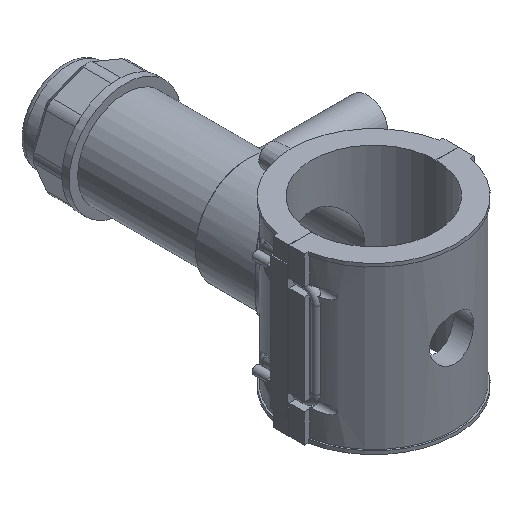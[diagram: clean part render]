
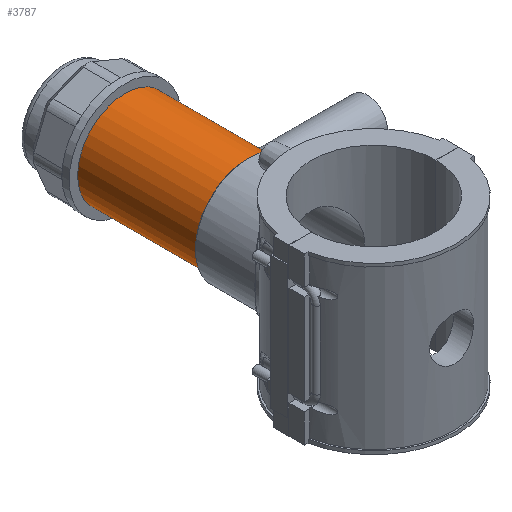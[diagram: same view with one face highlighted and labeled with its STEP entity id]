
A CAD part, isometric view. The second image highlights one B-rep face of the part: STEP entity #3787.
In plain terms, the highlighted cylindrical face has radius 33.928 mm (diameter 67.856 mm), a full revolution.
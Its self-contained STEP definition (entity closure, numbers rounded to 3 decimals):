
#53=FACE_BOUND('',#560,.T.);
#82=B_SPLINE_CURVE_WITH_KNOTS('',3,(#5587,#5588,#5589,#5590,#5591,#5592,
#5593,#5594,#5595,#5596,#5597,#5598,#5599,#5600),.UNSPECIFIED.,.F.,.F.,
(4,2,2,2,2,2,4),(0.,0.272,0.544,1.087,
1.63,1.901,2.173),.UNSPECIFIED.);
#83=B_SPLINE_CURVE_WITH_KNOTS('',3,(#5601,#5602,#5603,#5604,#5605,#5606,
#5607,#5608,#5609,#5610,#5611,#5612,#5613,#5614,#5615,#5616,#5617,#5618,
#5619,#5620,#5621,#5622,#5623,#5624,#5625,#5626,#5627,#5628,#5629,#5630,
#5631,#5632,#5633,#5634,#5635,#5636,#5637,#5638),.UNSPECIFIED.,.F.,.F.,
(4,2,2,2,2,2,2,2,2,2,2,2,2,2,2,2,2,2,4),(2.173,2.444,
2.716,3.259,3.802,4.074,4.346,
4.617,4.889,5.433,5.976,6.247,
6.519,6.79,7.061,7.604,8.148,
8.42,8.691),.UNSPECIFIED.);
#344=FACE_OUTER_BOUND('',#559,.T.);
#559=EDGE_LOOP('',(#2788,#2789,#2790,#2791,#2792,#2793));
#560=EDGE_LOOP('',(#2794,#2795));
#779=CIRCLE('',#4052,33.928);
#780=CIRCLE('',#4053,33.928);
#793=CIRCLE('',#4080,33.928);
#794=CIRCLE('',#4081,33.928);
#956=LINE('',#5888,#1297);
#1297=VECTOR('',#4630,33.928);
#1582=VERTEX_POINT('',#5584);
#1583=VERTEX_POINT('',#5586);
#1645=VERTEX_POINT('',#5829);
#1646=VERTEX_POINT('',#5830);
#1660=VERTEX_POINT('',#5884);
#1661=VERTEX_POINT('',#5885);
#1960=EDGE_CURVE('',#1583,#1582,#82,.T.);
#1961=EDGE_CURVE('',#1582,#1583,#83,.T.);
#2056=EDGE_CURVE('',#1645,#1646,#779,.T.);
#2057=EDGE_CURVE('',#1646,#1645,#780,.T.);
#2082=EDGE_CURVE('',#1660,#1661,#793,.T.);
#2083=EDGE_CURVE('',#1661,#1660,#794,.T.);
#2084=EDGE_CURVE('',#1661,#1646,#956,.T.);
#2788=ORIENTED_EDGE('',*,*,#2082,.F.);
#2789=ORIENTED_EDGE('',*,*,#2083,.F.);
#2790=ORIENTED_EDGE('',*,*,#2084,.T.);
#2791=ORIENTED_EDGE('',*,*,#2057,.T.);
#2792=ORIENTED_EDGE('',*,*,#2056,.T.);
#2793=ORIENTED_EDGE('',*,*,#2084,.F.);
#2794=ORIENTED_EDGE('',*,*,#1960,.T.);
#2795=ORIENTED_EDGE('',*,*,#1961,.T.);
#3691=CYLINDRICAL_SURFACE('',#4079,33.928);
#3787=ADVANCED_FACE('',(#344,#53),#3691,.T.);
#4052=AXIS2_PLACEMENT_3D('',#5831,#4558,#4559);
#4053=AXIS2_PLACEMENT_3D('',#5832,#4560,#4561);
#4079=AXIS2_PLACEMENT_3D('',#5883,#4624,#4625);
#4080=AXIS2_PLACEMENT_3D('',#5886,#4626,#4627);
#4081=AXIS2_PLACEMENT_3D('',#5887,#4628,#4629);
#4558=DIRECTION('center_axis',(0.,1.,0.));
#4559=DIRECTION('ref_axis',(1.,0.,0.));
#4560=DIRECTION('center_axis',(0.,1.,0.));
#4561=DIRECTION('ref_axis',(1.,0.,0.));
#4624=DIRECTION('center_axis',(0.,1.,0.));
#4625=DIRECTION('ref_axis',(0.,0.,1.));
#4626=DIRECTION('center_axis',(0.,1.,0.));
#4627=DIRECTION('ref_axis',(1.,0.,0.));
#4628=DIRECTION('center_axis',(0.,1.,0.));
#4629=DIRECTION('ref_axis',(1.,0.,0.));
#4630=DIRECTION('',(0.,-1.,0.));
#5584=CARTESIAN_POINT('',(33.928,95.149,0.));
#5586=CARTESIAN_POINT('',(30.802,109.374,-14.225));
#5587=CARTESIAN_POINT('Ctrl Pts',(30.802,109.374,-14.225));
#5588=CARTESIAN_POINT('Ctrl Pts',(30.802,108.468,-14.225));
#5589=CARTESIAN_POINT('Ctrl Pts',(30.843,107.535,-14.137));
#5590=CARTESIAN_POINT('Ctrl Pts',(31.008,105.688,-13.771));
#5591=CARTESIAN_POINT('Ctrl Pts',(31.131,104.773,-13.494));
#5592=CARTESIAN_POINT('Ctrl Pts',(31.59,102.151,-12.4));
#5593=CARTESIAN_POINT('Ctrl Pts',(32.014,100.567,-11.31));
#5594=CARTESIAN_POINT('Ctrl Pts',(32.79,98.066,-8.809));
#5595=CARTESIAN_POINT('Ctrl Pts',(33.197,96.974,-7.224));
#5596=CARTESIAN_POINT('Ctrl Pts',(33.626,95.88,-4.6));
#5597=CARTESIAN_POINT('Ctrl Pts',(33.74,95.602,-3.684));
#5598=CARTESIAN_POINT('Ctrl Pts',(33.891,95.237,-1.837));
#5599=CARTESIAN_POINT('Ctrl Pts',(33.928,95.149,-0.905));
#5600=CARTESIAN_POINT('Ctrl Pts',(33.928,95.149,0.));
#5601=CARTESIAN_POINT('Ctrl Pts',(33.928,95.149,0.));
#5602=CARTESIAN_POINT('Ctrl Pts',(33.928,95.149,0.905));
#5603=CARTESIAN_POINT('Ctrl Pts',(33.891,95.237,1.837));
#5604=CARTESIAN_POINT('Ctrl Pts',(33.74,95.602,3.684));
#5605=CARTESIAN_POINT('Ctrl Pts',(33.626,95.88,4.6));
#5606=CARTESIAN_POINT('Ctrl Pts',(33.197,96.974,7.224));
#5607=CARTESIAN_POINT('Ctrl Pts',(32.79,98.066,8.809));
#5608=CARTESIAN_POINT('Ctrl Pts',(32.014,100.567,11.31));
#5609=CARTESIAN_POINT('Ctrl Pts',(31.59,102.151,12.4));
#5610=CARTESIAN_POINT('Ctrl Pts',(31.131,104.773,13.494));
#5611=CARTESIAN_POINT('Ctrl Pts',(31.008,105.688,13.771));
#5612=CARTESIAN_POINT('Ctrl Pts',(30.843,107.535,14.137));
#5613=CARTESIAN_POINT('Ctrl Pts',(30.802,108.468,14.225));
#5614=CARTESIAN_POINT('Ctrl Pts',(30.802,110.28,14.225));
#5615=CARTESIAN_POINT('Ctrl Pts',(30.843,111.213,14.137));
#5616=CARTESIAN_POINT('Ctrl Pts',(31.008,113.06,13.771));
#5617=CARTESIAN_POINT('Ctrl Pts',(31.131,113.975,13.494));
#5618=CARTESIAN_POINT('Ctrl Pts',(31.59,116.597,12.4));
#5619=CARTESIAN_POINT('Ctrl Pts',(32.014,118.181,11.31));
#5620=CARTESIAN_POINT('Ctrl Pts',(32.79,120.682,8.809));
#5621=CARTESIAN_POINT('Ctrl Pts',(33.197,121.774,7.224));
#5622=CARTESIAN_POINT('Ctrl Pts',(33.626,122.868,4.6));
#5623=CARTESIAN_POINT('Ctrl Pts',(33.74,123.146,3.684));
#5624=CARTESIAN_POINT('Ctrl Pts',(33.891,123.511,1.837));
#5625=CARTESIAN_POINT('Ctrl Pts',(33.928,123.599,0.905));
#5626=CARTESIAN_POINT('Ctrl Pts',(33.928,123.599,-0.905));
#5627=CARTESIAN_POINT('Ctrl Pts',(33.891,123.511,-1.837));
#5628=CARTESIAN_POINT('Ctrl Pts',(33.74,123.146,-3.684));
#5629=CARTESIAN_POINT('Ctrl Pts',(33.626,122.868,-4.6));
#5630=CARTESIAN_POINT('Ctrl Pts',(33.197,121.774,-7.224));
#5631=CARTESIAN_POINT('Ctrl Pts',(32.79,120.682,-8.809));
#5632=CARTESIAN_POINT('Ctrl Pts',(32.014,118.181,-11.31));
#5633=CARTESIAN_POINT('Ctrl Pts',(31.59,116.597,-12.4));
#5634=CARTESIAN_POINT('Ctrl Pts',(31.131,113.975,-13.494));
#5635=CARTESIAN_POINT('Ctrl Pts',(31.008,113.06,-13.771));
#5636=CARTESIAN_POINT('Ctrl Pts',(30.843,111.213,-14.137));
#5637=CARTESIAN_POINT('Ctrl Pts',(30.802,110.28,-14.225));
#5638=CARTESIAN_POINT('Ctrl Pts',(30.802,109.374,-14.225));
#5829=CARTESIAN_POINT('',(0.,90.069,33.928));
#5830=CARTESIAN_POINT('',(0.,90.069,-33.928));
#5831=CARTESIAN_POINT('Origin',(0.,90.069,0.));
#5832=CARTESIAN_POINT('Origin',(0.,90.069,0.));
#5883=CARTESIAN_POINT('Origin',(0.,133.599,0.));
#5884=CARTESIAN_POINT('',(0.,177.129,33.928));
#5885=CARTESIAN_POINT('',(0.,177.129,-33.928));
#5886=CARTESIAN_POINT('Origin',(0.,177.129,0.));
#5887=CARTESIAN_POINT('Origin',(0.,177.129,0.));
#5888=CARTESIAN_POINT('',(0.,133.599,-33.928));
